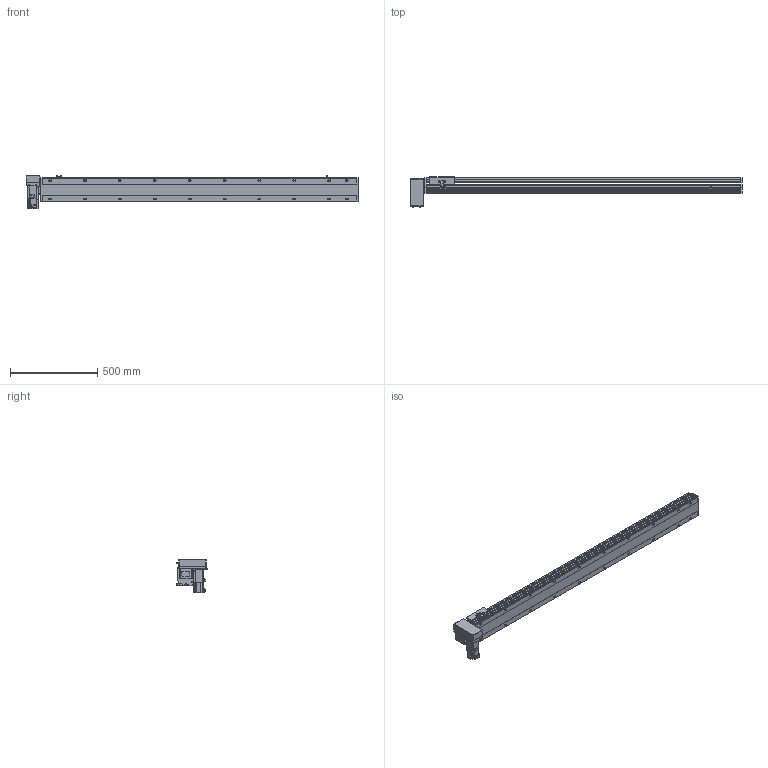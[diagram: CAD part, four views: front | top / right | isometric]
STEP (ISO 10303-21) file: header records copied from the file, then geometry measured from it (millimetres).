
FILE_DESCRIPTION(/* description */ ('STEP AP214'),/* implementation_level */ '2;1');
FILE_NAME(/* name */ 'PBS140S-P40-S1550-RD-T40-C1-N(0)',/* time_stamp */ '2022-06-09T02:43:49+02:00',/* author */ ('License CC BY-ND 4.0'),/* organization */ ('CADENAS'),/* preprocessor_version */ 'ST-DEVELOPER v18.102',/* originating_system */ 'PARTsolutions',/* authorisation */ ' ');
FILE_SCHEMA (('AUTOMOTIVE_DESIGN {1 0 10303 214 3 1 1}'));
Length unit declared in the file: millimetre
Products named in the file (7): PBS140S-P40-S1550-RD-T40-C1-N(0); PBS140S_sensor; PBS140S_plant; PBS140S_sliser; T40-p1; PBS140ST-RD_motors; PBS140S-S1550()_body
Assembly tree (8 placements, depth 2):
  PBS140S-P40-S1550-RD-T40-C1-N(0)
    PBS140S_sensor  x3
    PBS140S_plant
    PBS140S_sliser
    T40-p1
    PBS140ST-RD_motors
    PBS140S-S1550()_body
Bounding box: 1904 x 172.5 x 189.7 mm (x, y, z)
Volume: 9543414.7 mm3; surface area: 1629178.1 mm2
Topology: 8 solids, 8 shells, 1131 faces, 2991 edges, 1957 vertices
Faces by surface type: plane 714, cylinder 361, cone 46, sphere 8, torus 2
Full cylindrical faces by diameter (mm): 3.242 x4, 4 x2, 4.134 x4, 4.4 x8, 4.5 x2, 4.8 x4, 4.917 x28, 5.5 x7, 6 x2, 7 x22, 7.5 x8, 8 x12, 8.5 x4, 10.5 x20, 14 x1, 30 x2, 50 x2
Entity records: 32412 total; most frequent: CARTESIAN_POINT 6040, DIRECTION 5488, ORIENTED_EDGE 5182, EDGE_CURVE 2591, AXIS2_PLACEMENT_3D 1919, VERTEX_POINT 1801, LINE 1650, VECTOR 1650
